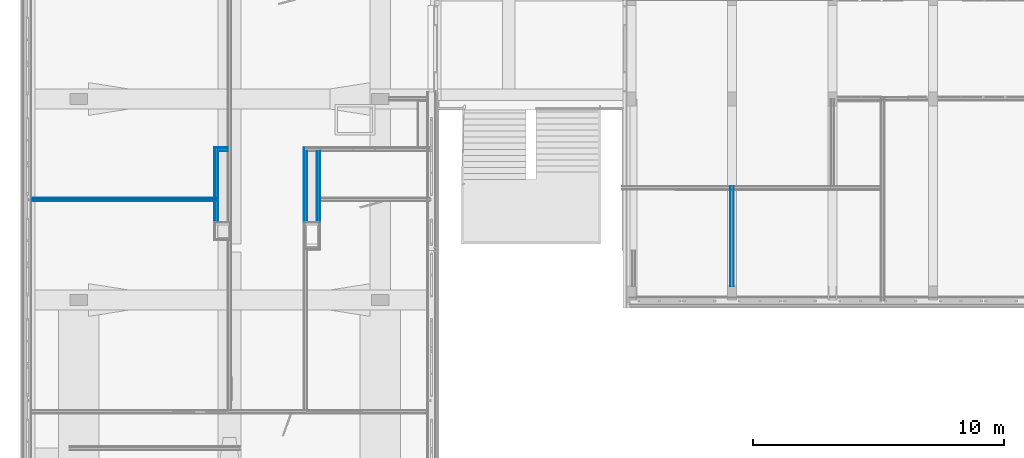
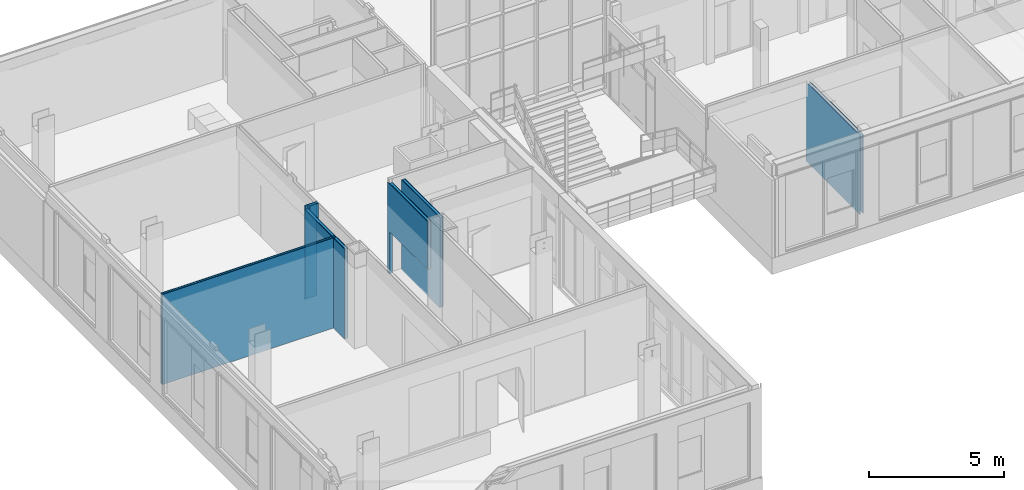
# One storey, part 44 of 94: 28 building element parts, 1 opening, 6 elements without a shape of their own.
"""IFC2X3 building model written with IfcOpenShell, lengths in millimetres."""

import ifcopenshell
import ifcopenshell.guid

model = None  # the IFC model being written
_history = None  # IfcOwnerHistory: only IFC2X3 demands one
_inside = {}  # id of a spatial element -> (the spatial element, [elements in it])
_under = {}  # id of a project, library or spatial element -> (it, [spatial elements below it])
_declared = {}  # id of a project -> (the project, [libraries it declares])
_typed = {}  # id of a type object -> (the type object, [elements of that type])
_made_of = {}  # id of a material, layer set ... -> (it, [elements and type objects made of it])


def new_model(schema):
    """Start an empty IFC model of exactly this schema.

    Asked for "IFC4X3", IfcOpenShell would pick the latest addendum, in which some entities
    have other attributes; the version numbers below select the first issue.
    IFC2X3 requires an IfcOwnerHistory on every rooted entity: one is made here for all.
    """
    global model, _history
    if schema == "IFC4X3":
        model = ifcopenshell.file(schema_version=(4, 3, 0, 0))
    else:
        model = ifcopenshell.file(schema=schema)
    _inside.clear()
    _under.clear()
    _declared.clear()
    _typed.clear()
    _made_of.clear()
    _history = None
    if model.schema == "IFC2X3":
        org = make("IfcOrganization", Name="unknown")
        user = make(
            "IfcPersonAndOrganization",
            ThePerson=make("IfcPerson", FamilyName="unknown"),
            TheOrganization=org,
        )
        app = make(
            "IfcApplication",
            ApplicationDeveloper=org,
            Version="unknown",
            ApplicationFullName="unknown",
            ApplicationIdentifier="unknown",
        )
        _history = make(
            "IfcOwnerHistory",
            OwningUser=user,
            OwningApplication=app,
            ChangeAction="ADDED",
            CreationDate=0,
        )
    return model


def make(cls, **values):
    """One entity of the class cls with the attributes given. An attribute that is None is left unset."""
    return model.create_entity(
        cls, **{name: value for name, value in values.items() if value is not None}
    )


def entity(cls, *values):
    """Any entity or typed value of the class cls, its attributes in the order of the schema. None: left unset."""
    e = model.create_entity(cls)
    for i, value in enumerate(values):
        if value is not None:
            e[i] = value
    return e


def rooted(cls, **values):
    """An entity with a GlobalId (a new one), such as an element, a storey or a relation."""
    return make(cls, GlobalId=ifcopenshell.guid.new(), OwnerHistory=_history, **values)


def si_unit(unit_type, name, prefix=None):
    """IfcSIUnit, for example si_unit("LENGTHUNIT", "METRE", prefix="MILLI")."""
    return make("IfcSIUnit", UnitType=unit_type, Prefix=prefix, Name=name)


def converted_unit(unit_type, name, factor, base, dimensions=None, offset=None):
    """IfcConversionBasedUnit, such as the inch: factor (a typed value) times the base unit."""
    return make(
        "IfcConversionBasedUnit"
        if offset is None
        else "IfcConversionBasedUnitWithOffset",
        ConversionOffset=offset,
        Dimensions=None
        if dimensions is None
        else entity("IfcDimensionalExponents", *dimensions),
        UnitType=unit_type,
        Name=name,
        ConversionFactor=make(
            "IfcMeasureWithUnit", ValueComponent=factor, UnitComponent=base
        ),
    )


def derived_unit(unit_type, elements):
    """IfcDerivedUnit: a product of units, each with its exponent."""
    return make(
        "IfcDerivedUnit",
        Elements=[
            make("IfcDerivedUnitElement", Unit=unit, Exponent=power)
            for unit, power in elements
        ],
        UnitType=unit_type,
    )


def money_unit(currency):
    """IfcMonetaryUnit."""
    return make("IfcMonetaryUnit", Currency=currency)


def assignment(units):
    """IfcUnitAssignment: the units of a project."""
    return None if units is None else make("IfcUnitAssignment", Units=units)


def point(xyz):
    """IfcCartesianPoint."""
    return None if xyz is None else make("IfcCartesianPoint", Coordinates=xyz)


def direction(xyz):
    """IfcDirection."""
    return None if xyz is None else make("IfcDirection", DirectionRatios=xyz)


def frame(location, z_axis=None, x_axis=None):
    """IfcAxis2Placement3D, a coordinate frame: its origin and axes. An axis left out is left unset."""
    return make(
        "IfcAxis2Placement3D",
        Location=point(location),
        Axis=direction(z_axis),
        RefDirection=direction(x_axis),
    )


def origin_with_axes():
    """The frame at (0, 0, 0) with the z axis (0, 0, 1) and the x axis (1, 0, 0) written out."""
    return frame((0.0, 0.0, 0.0), z_axis=(0.0, 0.0, 1.0), x_axis=(1.0, 0.0, 0.0))


def place(relative_to, where):
    """IfcLocalPlacement: puts the frame where relative to a parent placement (None: the world)."""
    return make(
        "IfcLocalPlacement", PlacementRelTo=relative_to, RelativePlacement=where
    )


def context(
    kind, dimensions, precision=None, world=None, true_north=None, identifier=None
):
    """IfcGeometricRepresentationContext, for example the 3D "Model" context."""
    return make(
        "IfcGeometricRepresentationContext",
        ContextIdentifier=identifier,
        ContextType=kind,
        CoordinateSpaceDimension=dimensions,
        Precision=precision,
        WorldCoordinateSystem=world,
        TrueNorth=true_north,
    )


def subcontext(parent, identifier, kind, view, scale=None):
    """IfcGeometricRepresentationSubContext, for example "Body" below "Model"."""
    return make(
        "IfcGeometricRepresentationSubContext",
        ContextIdentifier=identifier,
        ContextType=kind,
        ParentContext=parent,
        TargetScale=scale,
        TargetView=view,
    )


def project(units=None, contexts=None):
    """IfcProject with its units and contexts."""
    return rooted(
        "IfcProject",
        Name="project",
        RepresentationContexts=contexts,
        UnitsInContext=assignment(units),
    )


def spatial(cls, under=None, at=None, **own):
    """A site, building, storey or space (cls), placed at a placement, below another one or the project."""
    s = rooted(cls, ObjectPlacement=at, **own)
    if under is not None:
        _under.setdefault(under.id(), (under, []))[1].append(s)
    return s


def faces_of(points, faces, orient=None, outer=None):
    """IfcFace entities. A face is a list of loops; a loop is a list of indices into points, from 0.

    orient and outer hold one flag for each loop. By default every Orientation is true, the
    first loop of a face is its IfcFaceOuterBound and the others are IfcFaceBound.
    """
    made = []
    for i, loops in enumerate(faces):
        bounds = []
        for j, loop in enumerate(loops):
            is_outer = j == 0 if outer is None else outer[i][j]
            bounds.append(
                make(
                    "IfcFaceOuterBound" if is_outer else "IfcFaceBound",
                    Bound=make("IfcPolyLoop", Polygon=[points[k] for k in loop]),
                    Orientation=True if orient is None else orient[i][j],
                )
            )
        made.append(make("IfcFace", Bounds=bounds))
    return made


def faceted_brep(points, faces, orient=None, outer=None, voids=None):
    """IfcFacetedBrep: a solid bounded by flat faces; with voids (closed shells), ...WithVoids."""
    shared = [point(p) for p in points]
    hull = make("IfcClosedShell", CfsFaces=faces_of(shared, faces, orient, outer))
    if voids is None:
        return make("IfcFacetedBrep", Outer=hull)
    return make(
        "IfcFacetedBrepWithVoids",
        Outer=hull,
        Voids=[
            make(cls, CfsFaces=faces_of(shared, fs, o, b)) for cls, fs, o, b in voids
        ],
    )


def shape(context_of_items, identifier, shape_type, items):
    """IfcShapeRepresentation: the items that make up one representation, for example the "Body"."""
    return make(
        "IfcShapeRepresentation",
        ContextOfItems=context_of_items,
        RepresentationIdentifier=identifier,
        RepresentationType=shape_type,
        Items=items,
    )


def material(Name=None, Category=None):
    """IfcMaterial."""
    return make("IfcMaterial", Name=Name, Category=Category)


def made_of(thing, what):
    """Note that an element or type object is made of a material, layer set ...; save() writes the relation."""
    if what is not None:
        _made_of.setdefault(what.id(), (what, []))[1].append(thing)
    return thing


def type_object(cls, material=None, **own):
    """A type object (cls), such as IfcWallType, which elements share."""
    return made_of(rooted(cls, **own), material)


def element(
    cls,
    number,
    at=None,
    inside=None,
    cuts=None,
    type_object=None,
    material=None,
    context=None,
    identifier="Body",
    shape_type=None,
    held_by="IfcProductDefinitionShape",
    body=None,
    shapes=None,
    **own,
):
    """One element of the class cls, such as IfcWall. Its Tag is "e" and its number.

    at: its placement. inside: the storey or other place that contains it. cuts: it is an
    opening in that element (IfcRelVoidsElement). A single representation is given by context,
    identifier, shape_type and body (its items); several are given by shapes. held_by: the class
    of the entity that holds the representations. save() writes the other relations.
    """
    e = rooted(cls, Tag="e%d" % number, ObjectPlacement=at, **own)
    if body is not None:
        shapes = [shape(context, identifier, shape_type, body)]
    if shapes is not None:
        e.Representation = make(held_by, Representations=shapes)
    if inside is not None:
        _inside.setdefault(inside.id(), (inside, []))[1].append(e)
    if cuts is not None:
        rooted(
            "IfcRelVoidsElement", RelatingBuildingElement=cuts, RelatedOpeningElement=e
        )
    if type_object is not None:
        _typed.setdefault(type_object.id(), (type_object, []))[1].append(e)
    return made_of(e, material)


def aggregate(whole, parts):
    """IfcRelAggregates: a whole, such as a stair, and the parts it consists of."""
    return rooted("IfcRelAggregates", RelatingObject=whole, RelatedObjects=parts)


def save(model, path):
    """Write the relations noted so far, then the file.

    IfcRelAggregates (storeys below a building ...), IfcRelContainedInSpatialStructure (elements
    in a storey), IfcRelDefinesByType, IfcRelAssociatesMaterial and IfcRelDeclares: one each for
    every whole, place, type object, material and project.
    """
    for whole, parts in _under.values():
        aggregate(whole, parts)
    for where, things in _inside.values():
        rooted(
            "IfcRelContainedInSpatialStructure",
            RelatedElements=things,
            RelatingStructure=where,
        )
    for kind, things in _typed.values():
        rooted("IfcRelDefinesByType", RelatedObjects=things, RelatingType=kind)
    for what, things in _made_of.values():
        rooted("IfcRelAssociatesMaterial", RelatedObjects=things, RelatingMaterial=what)
    for by, libraries in _declared.values():
        rooted("IfcRelDeclares", RelatingContext=by, RelatedDefinitions=libraries)
    model.write(path)


model = new_model("IFC2X3")

# Units and contexts
model_context = context("Model", 3, precision=0.01, world=origin_with_axes(), true_north=direction((0.0, 1.0)))
body_context = subcontext(model_context, "Body", "Model", "MODEL_VIEW")
ifc_project = project(units=[si_unit("LENGTHUNIT", "METRE", prefix="MILLI"), si_unit("AREAUNIT", "SQUARE_METRE"), si_unit("VOLUMEUNIT", "CUBIC_METRE"), converted_unit("PLANEANGLEUNIT", "DEGREE", entity("IfcPlaneAngleMeasure", 0.0174532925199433), si_unit("PLANEANGLEUNIT", "RADIAN"), dimensions=[0, 0, 0, 0, 0, 0, 0]), money_unit("EUR"), converted_unit("TIMEUNIT", "Year", entity("IfcTimeMeasure", 31557600.0), si_unit("TIMEUNIT", "SECOND"), dimensions=[0, 0, 1, 0, 0, 0, 0]), si_unit("MASSUNIT", "GRAM", prefix="KILO"), si_unit("THERMODYNAMICTEMPERATUREUNIT", "DEGREE_CELSIUS"), si_unit("LUMINOUSINTENSITYUNIT", "LUMEN"), si_unit("ENERGYUNIT", "JOULE", prefix="MEGA"), derived_unit("THERMALCONDUCTANCEUNIT", [(si_unit("POWERUNIT", "WATT"), 1), (si_unit("LENGTHUNIT", "METRE"), -1), (si_unit("THERMODYNAMICTEMPERATUREUNIT", "KELVIN"), -1)]), derived_unit("SPECIFICHEATCAPACITYUNIT", [(si_unit("ENERGYUNIT", "JOULE"), 1), (si_unit("MASSUNIT", "GRAM", prefix="KILO"), -1), (si_unit("THERMODYNAMICTEMPERATUREUNIT", "KELVIN"), -1)]), derived_unit("MASSDENSITYUNIT", [(si_unit("MASSUNIT", "GRAM", prefix="KILO"), 1), (si_unit("VOLUMEUNIT", "CUBIC_METRE"), -1)])], contexts=[model_context])

# Site, building, storey
site_placement = place(None, origin_with_axes())
site = spatial("IfcSite", under=ifc_project, at=site_placement, Name="<site naam>", CompositionType="ELEMENT")
building_placement = place(site_placement, origin_with_axes())
building = spatial("IfcBuilding", under=site, at=building_placement, Name="<Naam gebouw>", CompositionType="ELEMENT")
storey_placement = place(building_placement, frame((0.0, 0.0, 4250.0), z_axis=(0.0, 0.0, 1.0), x_axis=(1.0, 0.0, 0.0)))
storey = spatial("IfcBuildingStorey", under=building, at=storey_placement, Name="01 1e verdieping", CompositionType="ELEMENT", Elevation=4250.0)

# Wall, building element parts
wall_type_1 = type_object("IfcWallType", Name="MS-01 GF 150 ECO DGS/2.100.2.A 150", PredefinedType="NOTDEFINED")
wall_1_placement = place(storey_placement, frame((16000.00000000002, 4524.999967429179, 0.0), z_axis=(0.0, 0.0, 1.0), x_axis=(0.0, -1.0, 0.0)))
wall_1 = element("IfcWall", 1, at=wall_1_placement, inside=storey, type_object=wall_type_1, Name="22_Binnenwand_MS-01")
ifc_material_1 = material(Name="gipsplaat")
building_element_part_1_placement = place(wall_1_placement, origin_with_axes())
building_element_part_1 = element("IfcBuildingElementPart", 2, at=building_element_part_1_placement, material=ifc_material_1, Name="gipsplaat", context=body_context, shape_type="Brep", body=[
    faceted_brep([(0.0, -74.99999999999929, 3569.999999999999), (0.0, -62.5, 3569.999999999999), (0.0, -62.5, 22.99999999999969), (0.0, -74.99999999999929, 22.99999999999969), (3974.999967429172, -62.5, 3569.999999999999), (3974.999967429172, -74.99999999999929, 3569.999999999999), (3975.000013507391, -62.5, 22.99999999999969), (3975.000013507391, -74.99999999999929, 22.99999999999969)], [[[0, 1, 2, 3]], [[4, 1, 0, 5]], [[1, 4, 6, 2]], [[6, 7, 3, 2]], [[5, 0, 3, 7]], [[4, 5, 7, 6]]]),
    faceted_brep([(0.0, -74.99999999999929, 19.99999999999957), (0.0, -62.5, 19.99999999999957), (0.0, -62.5, 0.0), (0.0, -74.99999999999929, 0.0), (3975.00001350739, -62.5, 19.99999999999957), (3975.00001350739, -75.00000000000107, 19.99999999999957), (3974.999967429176, -62.5, 0.0), (3974.999967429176, -75.00000000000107, 0.0)], [[[0, 1, 2, 3]], [[4, 1, 0, 5]], [[1, 4, 6, 2]], [[2, 6, 7, 3]], [[5, 0, 3, 7]], [[4, 5, 7, 6]]]),
])
building_element_part_2_placement = place(wall_1_placement, origin_with_axes())
building_element_part_2 = element("IfcBuildingElementPart", 3, at=building_element_part_2_placement, material=ifc_material_1, Name="gipsplaat", context=body_context, shape_type="Brep", body=[
    faceted_brep([(0.0, -62.5, 3569.999999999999), (0.0, -50.00000000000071, 3569.999999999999), (0.0, -50.00000000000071, 22.99999999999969), (0.0, -62.5, 22.99999999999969), (3974.999967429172, -50.00000000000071, 3569.999999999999), (3974.999967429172, -62.5, 3569.999999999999), (3975.000013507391, -50.00000000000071, 22.99999999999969), (3975.000013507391, -62.5, 22.99999999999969)], [[[0, 1, 2, 3]], [[4, 1, 0, 5]], [[1, 4, 6, 2]], [[6, 7, 3, 2]], [[5, 0, 3, 7]], [[4, 5, 7, 6]]]),
    faceted_brep([(0.0, -62.5, 19.99999999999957), (0.0, -50.00000000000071, 19.99999999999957), (0.0, -50.00000000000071, 0.0), (0.0, -62.5, 0.0), (3975.00001350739, -50.00000000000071, 19.99999999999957), (3975.00001350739, -62.5, 19.99999999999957), (3974.999967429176, -50.00000000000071, 0.0), (3974.999967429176, -62.5, 0.0)], [[[0, 1, 2, 3]], [[4, 1, 0, 5]], [[1, 4, 6, 2]], [[2, 6, 7, 3]], [[5, 0, 3, 7]], [[4, 5, 7, 6]]]),
])
building_element_part_3_placement = place(wall_1_placement, origin_with_axes())
building_element_part_3 = element("IfcBuildingElementPart", 4, at=building_element_part_3_placement, material=ifc_material_1, Name="gipsplaat", context=body_context, shape_type="Brep", body=[
    faceted_brep([(0.0, 62.5, 3569.999999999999), (0.0, 74.99999999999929, 3569.999999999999), (0.0, 74.99999999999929, 22.99999999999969), (0.0, 62.5, 22.99999999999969), (3974.999967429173, 74.99999999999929, 3569.999999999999), (3974.999967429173, 62.5, 3569.999999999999), (3975.000013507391, 74.99999999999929, 22.99999999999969), (3975.000013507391, 62.5, 22.99999999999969)], [[[0, 1, 2, 3]], [[4, 1, 0, 5]], [[1, 4, 6, 2]], [[6, 7, 3, 2]], [[5, 0, 3, 7]], [[4, 5, 7, 6]]]),
    faceted_brep([(0.0, 62.5, 19.99999999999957), (0.0, 74.99999999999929, 19.99999999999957), (0.0, 74.99999999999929, 0.0), (0.0, 62.5, 0.0), (3975.00001350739, 74.99999999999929, 19.99999999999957), (3975.00001350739, 62.5, 19.99999999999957), (3974.999967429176, 74.99999999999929, 0.0), (3974.999967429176, 62.5, 0.0)], [[[0, 1, 2, 3]], [[4, 1, 0, 5]], [[1, 4, 6, 2]], [[2, 6, 7, 3]], [[5, 0, 3, 7]], [[4, 5, 7, 6]]]),
])
aggregate(wall_1, [building_element_part_1, building_element_part_2, building_element_part_3])

# Wall, opening, building element parts
wall_2_placement = place(storey_placement, frame((-974.9999999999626, 6000.000000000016, 0.0), z_axis=(0.0, 0.0, 1.0), x_axis=(0.0, -1.0, 0.0)))
wall_2 = element("IfcWall", 5, at=wall_2_placement, inside=storey, type_object=wall_type_1, Name="22_Binnenwand_MS-01")
opening_placement = place(wall_2_placement, frame((6000.000000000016, 974.9999999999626, -4250.0), z_axis=(0.0, 0.0, 1.0), x_axis=(0.0, 1.0, 0.0)))
element("IfcOpeningElement", 6, at=opening_placement, cuts=wall_2, Name="22_Opening_", context=body_context, shape_type="Brep", body=[
    faceted_brep([(-1199.999999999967, 5925.000000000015, 4250.0), (-1199.999999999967, 5925.000000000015, 6160.0), (-749.9999999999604, 5925.000000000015, 6160.0), (-749.9999999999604, 5925.000000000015, 4250.0), (-1199.999999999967, 3105.000000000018, 4250.000000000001), (-1199.999999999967, 3105.000000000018, 6160.0), (-749.9999999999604, 3105.000000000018, 6160.0), (-749.9999999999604, 3105.000000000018, 4250.000000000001)], [[[0, 1, 2, 3]], [[0, 4, 5, 1]], [[1, 5, 6, 2]], [[3, 2, 6, 7]], [[4, 0, 3, 7]], [[5, 4, 7, 6]]]),
])
building_element_part_4_placement = place(wall_2_placement, origin_with_axes())
building_element_part_4 = element("IfcBuildingElementPart", 7, at=building_element_part_4_placement, material=ifc_material_1, Name="gipsplaat", context=body_context, shape_type="Brep", body=[
    faceted_brep([(75.00000000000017, 62.50000000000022, 4070.000000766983), (75.00000000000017, 75.0000000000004, 4070.000000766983), (75.00000000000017, 74.99999999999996, 1910.0), (75.00000000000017, 62.50000000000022, 1910.0), (2894.999999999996, 74.99999999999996, 4070.000000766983), (2894.999999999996, 62.49999999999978, 4070.000000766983), (2894.999999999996, 74.99999999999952, 1910.0), (2894.999999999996, 62.49999999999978, 1910.0)], [[[0, 1, 2, 3]], [[4, 1, 0, 5]], [[1, 4, 6, 2]], [[7, 3, 2, 6]], [[5, 0, 3, 7]], [[4, 5, 7, 6]]]),
    faceted_brep([(75.00000000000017, 62.50000000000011, 1900.0), (75.00000000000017, 75.00000000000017, 1900.0), (75.00000000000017, 74.99999999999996, 0.0), (75.00000000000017, 62.5, 0.0), (2894.999999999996, 74.99999999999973, 1900.0), (2894.999999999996, 62.49999999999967, 1900.0), (2894.999999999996, 74.99999999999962, 0.0), (2894.999999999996, 62.49999999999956, 0.0)], [[[0, 1, 2, 3]], [[4, 1, 0, 5]], [[1, 4, 6, 2]], [[6, 7, 3, 2]], [[5, 0, 3, 7]], [[4, 5, 7, 6]]]),
])
building_element_part_5_placement = place(wall_2_placement, origin_with_axes())
building_element_part_5 = element("IfcBuildingElementPart", 8, at=building_element_part_5_placement, material=ifc_material_1, Name="gipsplaat", context=body_context, shape_type="Brep", body=[
    faceted_brep([(62.5, 50.00000000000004, 4070.000000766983), (62.5, 62.50000000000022, 4070.000000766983), (62.5, 62.50000000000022, 0.0), (62.5, 50.00000000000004, 0.0), (2894.999999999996, 62.49999999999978, 4070.000000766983), (2894.999999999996, 50.00000000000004, 4070.000000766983), (2894.999999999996, 62.49999999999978, 1910.0), (75.00000000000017, 62.50000000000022, 1910.0), (75.00000000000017, 62.50000000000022, 1900.0), (2894.999999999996, 62.49999999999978, 1900.0), (2894.999999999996, 62.49999999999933, 0.0), (2894.999999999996, 49.9999999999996, 0.0), (2894.999999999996, 49.9999999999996, 1900.0), (75.00000000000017, 50.00000000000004, 1900.0), (75.00000000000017, 50.00000000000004, 1910.0), (2894.999999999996, 49.9999999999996, 1910.0)], [[[0, 1, 2, 3]], [[4, 1, 0, 5]], [[1, 4, 6, 7, 8, 9, 10, 2]], [[2, 10, 11, 3]], [[5, 0, 3, 11, 12, 13, 14, 15]], [[4, 5, 15, 6]], [[14, 7, 6, 15]], [[13, 8, 7, 14]], [[12, 9, 8, 13]], [[10, 9, 12, 11]]]),
])
ifc_material_2 = material(Name="isolatie_steenwol LSW")
building_element_part_6_placement = place(wall_2_placement, origin_with_axes())
building_element_part_6 = element("IfcBuildingElementPart", 9, at=building_element_part_6_placement, material=ifc_material_2, Name="isolatie_steenwol LSW", context=body_context, shape_type="Brep", body=[
    faceted_brep([(49.99999999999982, -49.9999999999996, 4070.000000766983), (49.99999999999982, 50.00000000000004, 4070.000000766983), (49.99999999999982, 50.00000000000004, 0.0), (49.99999999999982, -50.00000000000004, 0.0), (2894.999999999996, 50.00000000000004, 4070.000000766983), (2894.999999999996, -50.00000000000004, 4070.000000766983), (2894.999999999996, 49.9999999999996, 1910.0), (75.00000000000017, 50.00000000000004, 1910.0), (75.00000000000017, 50.00000000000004, 1900.0), (2894.999999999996, 49.9999999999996, 1900.0), (2894.999999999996, 49.9999999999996, 0.0), (2894.999999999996, -50.00000000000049, 0.0), (2894.999999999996, -50.00000000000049, 1900.0), (75.00000000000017, -49.9999999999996, 1900.0), (75.00000000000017, -49.9999999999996, 1910.0), (2894.999999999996, -50.00000000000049, 1910.0)], [[[0, 1, 2, 3]], [[4, 1, 0, 5]], [[1, 4, 6, 7, 8, 9, 10, 2]], [[2, 10, 11, 3]], [[5, 0, 3, 11, 12, 13, 14, 15]], [[4, 5, 15, 6]], [[14, 7, 6, 15]], [[13, 8, 7, 14]], [[12, 9, 8, 13]], [[10, 9, 12, 11]]]),
])
building_element_part_7_placement = place(wall_2_placement, origin_with_axes())
building_element_part_7 = element("IfcBuildingElementPart", 10, at=building_element_part_7_placement, material=ifc_material_1, Name="gipsplaat", context=body_context, shape_type="Brep", body=[
    faceted_brep([(-62.5, -74.99999999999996, 4070.000000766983), (-62.5, -62.49999999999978, 4070.000000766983), (-62.5, -62.49999999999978, 0.0), (-62.5, -74.99999999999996, 0.0), (2894.999999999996, -62.50000000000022, 4070.000000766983), (2894.999999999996, -74.99999999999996, 4070.000000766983), (2894.999999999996, -62.50000000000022, 1910.0), (75.00000000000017, -62.49999999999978, 1910.0), (75.00000000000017, -62.49999999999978, 1900.0), (2894.999999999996, -62.50000000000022, 1900.0), (2894.999999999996, -62.50000000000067, 0.0), (2894.999999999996, -75.0000000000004, 0.0), (2894.999999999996, -75.00000000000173, 1900.0), (75.00000000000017, -75.00000000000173, 1900.0), (75.00000000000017, -75.00000000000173, 1910.0), (2894.999999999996, -75.00000000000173, 1910.0)], [[[0, 1, 2, 3]], [[4, 1, 0, 5]], [[1, 4, 6, 7, 8, 9, 10, 2]], [[2, 10, 11, 3]], [[5, 0, 3, 11, 12, 13, 14, 15]], [[4, 5, 15, 6]], [[14, 7, 6, 15]], [[13, 8, 7, 14]], [[12, 9, 8, 13]], [[10, 9, 12, 11]]]),
])
building_element_part_8_placement = place(wall_2_placement, origin_with_axes())
building_element_part_8 = element("IfcBuildingElementPart", 11, at=building_element_part_8_placement, material=ifc_material_1, Name="gipsplaat", context=body_context, shape_type="Brep", body=[
    faceted_brep([(-49.99999999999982, -62.49999999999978, 4070.000000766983), (-49.99999999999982, -49.9999999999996, 4070.000000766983), (-49.99999999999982, -50.00000000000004, 0.0), (-49.99999999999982, -62.49999999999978, 0.0), (2894.999999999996, -50.00000000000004, 4070.000000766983), (2894.999999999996, -62.50000000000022, 4070.000000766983), (2894.999999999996, -50.00000000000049, 1910.0), (75.00000000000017, -50.00000000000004, 1910.0), (75.00000000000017, -50.00000000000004, 1900.0), (2894.999999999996, -50.00000000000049, 1900.0), (2894.999999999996, -50.00000000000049, 0.0), (2894.999999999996, -62.50000000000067, 0.0), (2894.999999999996, -62.50000000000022, 1900.0), (75.00000000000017, -62.49999999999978, 1900.0), (75.00000000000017, -62.49999999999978, 1910.0), (2894.999999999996, -62.50000000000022, 1910.0)], [[[0, 1, 2, 3]], [[4, 1, 0, 5]], [[1, 4, 6, 7, 8, 9, 10, 2]], [[2, 10, 11, 3]], [[5, 0, 3, 11, 12, 13, 14, 15]], [[4, 5, 15, 6]], [[14, 7, 6, 15]], [[13, 8, 7, 14]], [[12, 9, 8, 13]], [[10, 9, 12, 11]]]),
])
aggregate(wall_2, [building_element_part_4, building_element_part_5, building_element_part_6, building_element_part_7, building_element_part_8])

# Wall, building element parts
wall_type_2 = type_object("IfcWallType", Name="MS-02 GF 125 ECO DGS/2.75.2.A 125", PredefinedType="NOTDEFINED")
wall_3_placement = place(storey_placement, frame((-4447.999790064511, 4000.000000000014, 0.0), z_axis=(0.0, 0.0, 1.0), x_axis=(-1.0, 0.0, 0.0)))
wall_3 = element("IfcWall", 12, at=wall_3_placement, inside=storey, type_object=wall_type_2, Name="22_Binnenwand_MS-02")
building_element_part_9_placement = place(wall_3_placement, origin_with_axes())
building_element_part_9 = element("IfcBuildingElementPart", 13, at=building_element_part_9_placement, material=ifc_material_1, Name="gipsplaat", context=body_context, shape_type="Brep", body=[
    faceted_brep([(7447.000209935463, 37.49999999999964, 4070.000000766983), (0.0, 37.50000000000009, 4070.000000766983), (0.0, 37.50000000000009, 0.0), (146.99963176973, 37.50000000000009, 0.0), (146.99963176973, 37.50000000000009, 3.000000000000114), (7447.000209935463, 37.49999999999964, 3.000000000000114), (0.0, 50.00000000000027, 4070.000000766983), (7447.000209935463, 49.99999999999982, 4070.000000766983), (0.0, 49.99999999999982, 0.0), (146.99963176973, 49.99999999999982, 0.0), (146.99963176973, 49.99999999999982, 3.000000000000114), (7447.000209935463, 49.99999999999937, 3.000000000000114)], [[[0, 1, 2, 3, 4, 5]], [[6, 1, 0, 7]], [[1, 6, 8, 2]], [[8, 9, 3, 2]], [[10, 4, 3, 9]], [[11, 5, 4, 10]], [[7, 0, 5, 11]], [[6, 7, 11, 10, 9, 8]]]),
])
building_element_part_10_placement = place(wall_3_placement, origin_with_axes())
building_element_part_10 = element("IfcBuildingElementPart", 14, at=building_element_part_10_placement, material=ifc_material_2, Name="isolatie_steenwol LSW", context=body_context, shape_type="Brep", body=[
    faceted_brep([(7447.000209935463, -37.50000000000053, 4070.000000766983), (0.0, -37.49999999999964, 4070.000000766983), (0.0, -37.49999999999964, 0.0), (146.99963176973, -37.49999999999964, 0.0), (146.99963176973, -37.49999999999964, 3.000000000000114), (7447.000209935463, -37.50000000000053, 3.000000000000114), (0.0, 37.50000000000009, 4070.000000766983), (7447.000209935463, 37.49999999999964, 4070.000000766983), (0.0, 37.50000000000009, 0.0), (146.99963176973, 37.50000000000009, 0.0), (146.99963176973, 37.49999999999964, 3.000000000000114), (7447.000209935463, 37.49999999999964, 3.000000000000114)], [[[0, 1, 2, 3, 4, 5]], [[6, 1, 0, 7]], [[1, 6, 8, 2]], [[8, 9, 3, 2]], [[10, 4, 3, 9]], [[11, 5, 4, 10]], [[7, 0, 5, 11]], [[6, 7, 11, 10, 9, 8]]]),
])
building_element_part_11_placement = place(wall_3_placement, origin_with_axes())
building_element_part_11 = element("IfcBuildingElementPart", 15, at=building_element_part_11_placement, material=ifc_material_1, Name="gipsplaat", context=body_context, shape_type="Brep", body=[
    faceted_brep([(7447.000209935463, -62.5, 4070.000000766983), (0.0, -62.5, 4070.000000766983), (0.0, -62.5, 0.0), (146.99963176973, -62.5, 0.0), (146.99963176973, -62.5, 3.000000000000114), (7447.000209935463, -62.50000000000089, 3.000000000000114), (0.0, -49.99999999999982, 4070.000000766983), (7447.000209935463, -49.99999999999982, 4070.000000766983), (0.0, -49.99999999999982, 0.0), (146.99963176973, -49.99999999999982, 0.0), (146.99963176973, -49.99999999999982, 3.000000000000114), (7447.000209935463, -50.00000000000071, 3.000000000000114)], [[[0, 1, 2, 3, 4, 5]], [[6, 1, 0, 7]], [[1, 6, 8, 2]], [[8, 9, 3, 2]], [[10, 4, 3, 9]], [[11, 5, 4, 10]], [[7, 0, 5, 11]], [[6, 7, 11, 10, 9, 8]]]),
])
building_element_part_12_placement = place(wall_3_placement, origin_with_axes())
building_element_part_12 = element("IfcBuildingElementPart", 16, at=building_element_part_12_placement, material=ifc_material_1, Name="gipsplaat", context=body_context, shape_type="Brep", body=[
    faceted_brep([(7447.000209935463, -49.99999999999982, 4070.000000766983), (0.0, -49.99999999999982, 4070.000000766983), (0.0, -49.99999999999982, 0.0), (146.99963176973, -49.99999999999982, 0.0), (146.99963176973, -50.00000000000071, 3.000000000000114), (7447.000209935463, -50.00000000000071, 3.000000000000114), (0.0, -37.49999999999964, 4070.000000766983), (7447.000209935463, -37.50000000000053, 4070.000000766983), (0.0, -37.49999999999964, 0.0), (146.99963176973, -37.49999999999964, 0.0), (146.99963176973, -37.50000000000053, 3.000000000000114), (7447.000209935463, -37.50000000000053, 3.000000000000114)], [[[0, 1, 2, 3, 4, 5]], [[6, 1, 0, 7]], [[1, 6, 8, 2]], [[8, 9, 3, 2]], [[10, 4, 3, 9]], [[11, 5, 4, 10]], [[7, 0, 5, 11]], [[6, 7, 11, 10, 9, 8]]]),
])
building_element_part_13_placement = place(wall_3_placement, origin_with_axes())
building_element_part_13 = element("IfcBuildingElementPart", 17, at=building_element_part_13_placement, material=ifc_material_1, Name="gipsplaat", context=body_context, shape_type="Brep", body=[
    faceted_brep([(7447.000209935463, 49.99999999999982, 4070.000000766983), (0.0, 50.00000000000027, 4070.000000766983), (0.0, 49.99999999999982, 0.0), (146.99963176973, 49.99999999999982, 0.0), (146.99963176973, 49.99999999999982, 3.000000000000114), (7447.000209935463, 49.99999999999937, 3.000000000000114), (0.0, 62.50000000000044, 4070.000000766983), (7447.000209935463, 62.5, 4070.000000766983), (0.0, 62.5, 0.0), (146.99963176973, 62.5, 0.0), (146.99963176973, 62.5, 3.000000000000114), (7447.000209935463, 62.49999999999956, 3.000000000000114)], [[[0, 1, 2, 3, 4, 5]], [[6, 1, 0, 7]], [[1, 6, 8, 2]], [[8, 9, 3, 2]], [[10, 4, 3, 9]], [[11, 5, 4, 10]], [[7, 0, 5, 11]], [[6, 7, 11, 10, 9, 8]]]),
])
aggregate(wall_3, [building_element_part_9, building_element_part_10, building_element_part_11, building_element_part_12, building_element_part_13])

wall_4_placement = place(storey_placement, frame((-529.9999999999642, 5925.000000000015, 0.0), z_axis=(0.0, 0.0, 1.0), x_axis=(0.0, -1.0, 0.0)))
wall_4 = element("IfcWall", 18, at=wall_4_placement, inside=storey, type_object=wall_type_1, Name="22_Binnenwand_MS-01")
building_element_part_14_placement = place(wall_4_placement, origin_with_axes())
building_element_part_14 = element("IfcBuildingElementPart", 19, at=building_element_part_14_placement, material=ifc_material_1, Name="gipsplaat", context=body_context, shape_type="Brep", body=[
    faceted_brep([(1.46437777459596e-05, 137.5000000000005, 4070.000000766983), (1.46437777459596e-05, 150.0000000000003, 4070.000000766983), (4.962613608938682e-05, 150.0000000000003, 3640.0), (4.962613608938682e-05, 137.5000000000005, 3640.0), (2819.999999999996, 149.9999999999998, 4070.000000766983), (2819.999999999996, 137.5000000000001, 4070.000000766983), (2819.999999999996, 149.9999999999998, 0.0), (0.0, 149.9999999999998, 0.0), (4.962613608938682e-05, 150.0000000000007, 3600.0), (1849.999958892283, 149.9999999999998, 3600.0), (1849.999958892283, 149.9999999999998, 3640.0), (1849.999958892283, 137.5000000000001, 3640.0), (1849.999958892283, 137.5000000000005, 3600.0), (4.962613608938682e-05, 137.4999999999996, 3600.0), (0.0, 137.5000000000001, 0.0), (2819.999999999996, 137.4999999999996, 0.0)], [[[0, 1, 2, 3]], [[4, 1, 0, 5]], [[1, 4, 6, 7, 8, 9, 10, 2]], [[11, 3, 2, 10]], [[5, 0, 3, 11, 12, 13, 14, 15]], [[4, 5, 15, 6]], [[7, 6, 15, 14]], [[14, 13, 8, 7]], [[12, 9, 8, 13]], [[11, 10, 9, 12]]]),
])
building_element_part_15_placement = place(wall_4_placement, origin_with_axes())
building_element_part_15 = element("IfcBuildingElementPart", 20, at=building_element_part_15_placement, material=ifc_material_1, Name="gipsplaat", context=body_context, shape_type="Brep", body=[
    faceted_brep([(0.0, 125.0000000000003, 4070.000000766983), (0.0, 137.5000000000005, 4070.000000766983), (0.0, 137.5000000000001, 0.0), (0.0, 124.9999999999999, 0.0), (2819.999999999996, 137.5000000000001, 4070.000000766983), (2819.999999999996, 124.9999999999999, 4070.000000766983), (2819.999999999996, 137.4999999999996, 0.0), (2819.999999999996, 124.9999999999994, 0.0)], [[[0, 1, 2, 3]], [[4, 1, 0, 5]], [[1, 4, 6, 2]], [[6, 7, 3, 2]], [[5, 0, 3, 7]], [[4, 5, 7, 6]]]),
])
building_element_part_16_placement = place(wall_4_placement, origin_with_axes())
building_element_part_16 = element("IfcBuildingElementPart", 21, at=building_element_part_16_placement, material=ifc_material_2, Name="isolatie_steenwol LSW", context=body_context, shape_type="Brep", body=[
    faceted_brep([(0.0, 25.00000000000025, 4070.000000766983), (0.0, 125.0000000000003, 4070.000000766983), (0.0, 124.9999999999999, 0.0), (0.0, 24.9999999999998, 0.0), (2819.999999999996, 124.9999999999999, 4070.000000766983), (2819.999999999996, 24.9999999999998, 4070.000000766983), (2819.999999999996, 124.9999999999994, 0.0), (2819.999999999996, 24.9999999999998, 0.0)], [[[0, 1, 2, 3]], [[4, 1, 0, 5]], [[1, 4, 6, 2]], [[6, 7, 3, 2]], [[5, 0, 3, 7]], [[4, 5, 7, 6]]]),
])
building_element_part_17_placement = place(wall_4_placement, origin_with_axes())
building_element_part_17 = element("IfcBuildingElementPart", 22, at=building_element_part_17_placement, material=ifc_material_1, Name="gipsplaat", context=body_context, shape_type="Brep", body=[
    faceted_brep([(0.0, 12.50000000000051, 4070.000000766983), (0.0, 25.00000000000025, 4070.000000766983), (0.0, 24.9999999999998, 0.0), (0.0, 12.50000000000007, 0.0), (2819.999999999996, 24.9999999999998, 4070.000000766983), (2819.999999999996, 12.49999999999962, 4070.000000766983), (2819.999999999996, 24.9999999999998, 0.0), (2819.999999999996, 12.49999999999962, 0.0)], [[[0, 1, 2, 3]], [[4, 1, 0, 5]], [[1, 4, 6, 2]], [[6, 7, 3, 2]], [[5, 0, 3, 7]], [[4, 5, 7, 6]]]),
])

wall_5_placement = place(storey_placement, frame((-4444.999421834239, 6000.103741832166, 0.0), z_axis=(0.0, 0.0, 1.0), x_axis=(0.0, -1.0, 0.0)))
wall_5 = element("IfcWall", 23, at=wall_5_placement, inside=storey, type_object=wall_type_1, Name="22_Binnenwand_MS-01")
building_element_part_18_placement = place(wall_5_placement, origin_with_axes())
building_element_part_18 = element("IfcBuildingElementPart", 24, at=building_element_part_18_placement, material=ifc_material_1, Name="gipsplaat", context=body_context, shape_type="Brep", body=[
    faceted_brep([(62.5, -12.50000000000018, 4070.000000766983), (62.5, 0.0, 4070.000000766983), (62.5, 0.0, 0.0), (62.5, -12.50000000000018, 0.0), (2894.999999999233, 0.0, 4070.000000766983), (2894.999999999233, -12.49999999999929, 4070.000000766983), (2894.999999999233, 0.0, 0.0), (2894.999999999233, -12.49999999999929, 0.0)], [[[0, 1, 2, 3]], [[4, 1, 0, 5]], [[1, 4, 6, 2]], [[2, 6, 7, 3]], [[5, 0, 3, 7]], [[4, 5, 7, 6]]]),
])
building_element_part_19_placement = place(wall_5_placement, origin_with_axes())
building_element_part_19 = element("IfcBuildingElementPart", 25, at=building_element_part_19_placement, material=ifc_material_1, Name="gipsplaat", context=body_context, shape_type="Brep", body=[
    faceted_brep([(49.99999999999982, -24.99999999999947, 4070.000000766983), (49.99999999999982, -12.50000000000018, 4070.000000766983), (49.99999999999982, -12.50000000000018, 0.0), (49.99999999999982, -25.00000000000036, 0.0), (2894.999999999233, -12.49999999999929, 4070.000000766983), (2894.999999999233, -24.99999999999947, 4070.000000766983), (2894.999999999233, -12.49999999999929, 0.0), (2894.999999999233, -24.99999999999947, 0.0)], [[[0, 1, 2, 3]], [[4, 1, 0, 5]], [[1, 4, 6, 2]], [[2, 6, 7, 3]], [[5, 0, 3, 7]], [[4, 5, 7, 6]]]),
])
building_element_part_20_placement = place(wall_5_placement, origin_with_axes())
building_element_part_20 = element("IfcBuildingElementPart", 26, at=building_element_part_20_placement, material=ifc_material_2, Name="isolatie_steenwol LSW", context=body_context, shape_type="Brep", body=[
    faceted_brep([(-49.99999999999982, -125.0, 4070.000000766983), (-49.99999999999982, -24.99999999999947, 4070.000000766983), (-49.99999999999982, -25.00000000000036, 0.0), (-49.99999999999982, -125.0, 0.0), (2894.999999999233, -24.99999999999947, 4070.000000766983), (2894.999999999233, -124.9999999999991, 4070.000000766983), (2894.999999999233, -24.99999999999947, 0.0), (2894.999999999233, -124.9999999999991, 0.0)], [[[0, 1, 2, 3]], [[4, 1, 0, 5]], [[1, 4, 6, 2]], [[2, 6, 7, 3]], [[5, 0, 3, 7]], [[4, 5, 7, 6]]]),
])
building_element_part_21_placement = place(wall_5_placement, origin_with_axes())
building_element_part_21 = element("IfcBuildingElementPart", 27, at=building_element_part_21_placement, material=ifc_material_1, Name="gipsplaat", context=body_context, shape_type="Brep", body=[
    faceted_brep([(-62.5, -137.5000000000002, 4070.000000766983), (-62.5, -125.0, 4070.000000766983), (-62.5, -125.0, 0.0), (-62.5, -137.5000000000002, 0.0), (2894.999999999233, -124.9999999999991, 4070.000000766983), (2894.999999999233, -137.4999999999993, 4070.000000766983), (2894.999999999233, -124.9999999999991, 0.0), (2894.999999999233, -137.4999999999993, 0.0)], [[[0, 1, 2, 3]], [[4, 1, 0, 5]], [[1, 4, 6, 2]], [[2, 6, 7, 3]], [[5, 0, 3, 7]], [[4, 5, 7, 6]]]),
])
building_element_part_22_placement = place(wall_5_placement, origin_with_axes())
building_element_part_22 = element("IfcBuildingElementPart", 28, at=building_element_part_22_placement, material=ifc_material_1, Name="gipsplaat", context=body_context, shape_type="Brep", body=[
    faceted_brep([(-75.00000000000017, -149.9999999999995, 4070.000000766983), (-75.00000000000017, -137.5000000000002, 4070.000000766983), (-75.00000000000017, -137.5000000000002, 0.0), (-75.00000000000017, -150.0000000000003, 0.0), (2894.999999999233, -137.4999999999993, 4070.000000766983), (2894.999999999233, -149.9999999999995, 4070.000000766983), (2894.999999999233, -137.4999999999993, 0.0), (2894.999999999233, -149.9999999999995, 0.0)], [[[0, 1, 2, 3]], [[4, 1, 0, 5]], [[1, 4, 6, 2]], [[2, 6, 7, 3]], [[5, 0, 3, 7]], [[4, 5, 7, 6]]]),
])
aggregate(wall_5, [building_element_part_18, building_element_part_19, building_element_part_20, building_element_part_21, building_element_part_22])

# Building element part
building_element_part_23_placement = place(wall_4_placement, origin_with_axes())
building_element_part_23 = element("IfcBuildingElementPart", 29, at=building_element_part_23_placement, material=ifc_material_1, Name="gipsplaat", context=body_context, shape_type="Brep", body=[
    faceted_brep([(0.0, 0.0, 4070.000000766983), (0.0, 12.50000000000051, 4070.000000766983), (0.0, 12.50000000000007, 0.0), (0.0, 0.0, 0.0), (2819.999999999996, 12.49999999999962, 4070.000000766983), (2819.999999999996, 0.0, 4070.000000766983), (2819.999999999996, 12.49999999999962, 0.0), (2819.999999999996, 0.0, 0.0)], [[[0, 1, 2, 3]], [[4, 1, 0, 5]], [[1, 4, 6, 2]], [[6, 7, 3, 2]], [[5, 0, 3, 7]], [[4, 5, 7, 6]]]),
])

aggregate(wall_4, [building_element_part_14, building_element_part_15, building_element_part_16, building_element_part_17, building_element_part_23])

# Wall, building element parts
wall_6_placement = place(storey_placement, frame((-3999.999999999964, 6000.103741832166, 0.0), z_axis=(0.0, 0.0, 1.0), x_axis=(-1.0, 0.0, 0.0)))
wall_6 = element("IfcWall", 30, at=wall_6_placement, inside=storey, type_object=wall_type_1, Name="22_Binnenwand_MS-01")
building_element_part_24_placement = place(wall_6_placement, origin_with_axes())
building_element_part_24 = element("IfcBuildingElementPart", 31, at=building_element_part_24_placement, material=ifc_material_1, Name="gipsplaat", context=body_context, shape_type="Brep", body=[
    faceted_brep([(75.00000000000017, 74.99999999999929, 4250.0), (75.00000000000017, 62.5, 4250.0), (444.9994218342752, 62.5, 4250.0), (444.9994218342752, 75.00000000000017, 4250.0), (75.00000000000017, 62.50000000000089, 0.0), (75.00000000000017, 75.00000000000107, 0.0), (444.9994218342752, 62.5, 0.0), (444.9994218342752, 75.00000000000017, 0.0)], [[[0, 1, 2, 3]], [[4, 1, 0, 5]], [[1, 4, 6, 2]], [[3, 2, 6, 7]], [[5, 0, 3, 7]], [[4, 5, 7, 6]]]),
])
building_element_part_25_placement = place(wall_6_placement, origin_with_axes())
building_element_part_25 = element("IfcBuildingElementPart", 32, at=building_element_part_25_placement, material=ifc_material_1, Name="gipsplaat", context=body_context, shape_type="Brep", body=[
    faceted_brep([(75.00000000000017, 62.5, 4250.0), (75.00000000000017, 49.99999999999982, 4250.0), (457.4994218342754, 49.99999999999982, 4250.0), (457.4994218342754, 62.5, 4250.0), (75.00000000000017, 49.99999999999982, 0.0), (75.00000000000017, 62.50000000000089, 0.0), (457.4994218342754, 49.99999999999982, 0.0), (457.4994218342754, 62.5, 0.0)], [[[0, 1, 2, 3]], [[4, 1, 0, 5]], [[1, 4, 6, 2]], [[3, 2, 6, 7]], [[5, 0, 3, 7]], [[4, 5, 7, 6]]]),
])
building_element_part_26_placement = place(wall_6_placement, origin_with_axes())
building_element_part_26 = element("IfcBuildingElementPart", 33, at=building_element_part_26_placement, material=ifc_material_2, Name="isolatie_steenwol LSW", context=body_context, shape_type="Brep", body=[
    faceted_brep([(75.00000000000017, 49.99999999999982, 4250.0), (75.00000000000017, -49.99999999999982, 4250.0), (469.9994218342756, -49.99999999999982, 4250.0), (469.9994218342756, 49.99999999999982, 4250.0), (75.00000000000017, -49.99999999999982, 0.0), (75.00000000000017, 49.99999999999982, 0.0), (469.9994218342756, -49.99999999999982, 0.0), (469.9994218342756, 49.99999999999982, 0.0)], [[[0, 1, 2, 3]], [[4, 1, 0, 5]], [[1, 4, 6, 2]], [[3, 2, 6, 7]], [[5, 0, 3, 7]], [[4, 5, 7, 6]]]),
])
building_element_part_27_placement = place(wall_6_placement, origin_with_axes())
building_element_part_27 = element("IfcBuildingElementPart", 34, at=building_element_part_27_placement, material=ifc_material_1, Name="gipsplaat", context=body_context, shape_type="Brep", body=[
    faceted_brep([(75.00000000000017, -50.00000000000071, 4250.0), (75.00000000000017, -62.50000000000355, 4250.0), (569.9994218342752, -62.5, 4250.0), (569.9994218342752, -49.99999999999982, 4250.0), (75.00000000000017, -62.49999999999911, 0.0), (75.00000000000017, -49.99999999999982, 0.0), (569.9994218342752, -62.5, 0.0), (569.9994218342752, -49.99999999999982, 0.0)], [[[0, 1, 2, 3]], [[4, 1, 0, 5]], [[1, 4, 6, 2]], [[3, 2, 6, 7]], [[5, 0, 3, 7]], [[4, 5, 7, 6]]]),
])
building_element_part_28_placement = place(wall_6_placement, origin_with_axes())
building_element_part_28 = element("IfcBuildingElementPart", 35, at=building_element_part_28_placement, material=ifc_material_1, Name="gipsplaat", context=body_context, shape_type="Brep", body=[
    faceted_brep([(582.4994218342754, -62.5, 4250.0), (75.00000000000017, -62.50000000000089, 4250.0), (75.00000000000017, -75.00000000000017, 4250.0), (582.4994218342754, -75.00000000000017, 4250.0), (582.4994218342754, -62.5, 0.0), (75.00000000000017, -62.5, 0.0), (75.00000000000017, -75.00000000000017, 0.0), (582.4994218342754, -75.00000000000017, 0.0)], [[[0, 1, 2, 3]], [[4, 5, 1, 0]], [[5, 6, 2, 1]], [[3, 2, 6, 7]], [[4, 0, 3, 7]], [[7, 6, 5, 4]]]),
])
aggregate(wall_6, [building_element_part_24, building_element_part_25, building_element_part_26, building_element_part_27, building_element_part_28])

save(model, "model.ifc")
